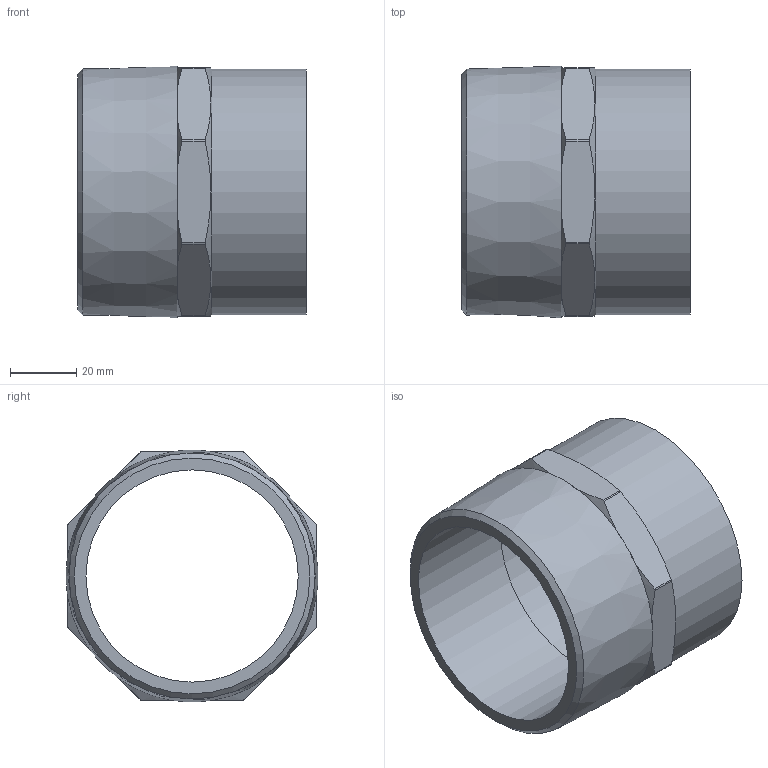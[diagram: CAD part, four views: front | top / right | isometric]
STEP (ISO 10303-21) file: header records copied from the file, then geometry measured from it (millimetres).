
FILE_DESCRIPTION((''),'2;1');
FILE_NAME('\\Lg50001\Groups\SANHA Legnica\Engineering\Public\RYSUNKI\SANHA POLSKA\4243G\step\14243_67-212(3).stp','2008-08-27T12:26:40',('pajchrowski'),(''),'Autodesk Inventor 2008','Autodesk Inventor 2008','');
FILE_SCHEMA(('AUTOMOTIVE_DESIGN { 1 0 10303 214 1 1 1 1 }'));
Length unit declared in the file: millimetre
Products named in the file (1): 14243_67-212(3)
Bounding box: 69 x 75.91 x 75.86 mm (x, y, z)
Volume: 72187 mm3; surface area: 32755.5 mm2
Topology: 1 solids, 1 shells, 41 faces, 96 edges, 58 vertices
Faces by surface type: plane 19, cone 11, cylinder 11
Full cylindrical faces by diameter (mm): 64 x1, 66.7 x1, 74 x1
Entity records: 1124 total; most frequent: CARTESIAN_POINT 234, DIRECTION 188, ORIENTED_EDGE 176, EDGE_CURVE 88, AXIS2_PLACEMENT_3D 82, VERTEX_POINT 56, EDGE_LOOP 50, FACE_OUTER_BOUND 41
